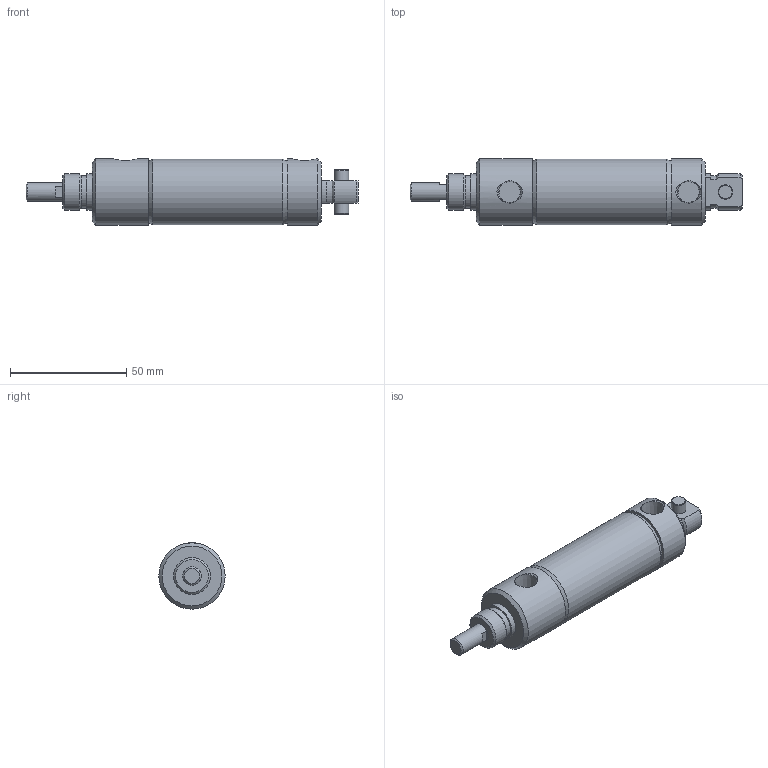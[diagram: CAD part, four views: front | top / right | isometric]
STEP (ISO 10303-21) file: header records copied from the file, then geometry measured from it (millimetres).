
FILE_DESCRIPTION( ( 'STEP AP214' ), '1' );
FILE_NAME( 'p:/temp/worker_460/temp/exporttempdir_84208_183_1CZVI/format_0/1062D02-01A.stp', '2020-05-07T16:37:35', ( 'License CC BY-ND 4.0' ), ( 'CADENAS' ), ' ', 'PARTsolutions', ' ' );
FILE_SCHEMA( ( 'AUTOMOTIVE_DESIGN { 1 0 10303 214 1 1 1 1 }' ) );
Length unit declared in the file: inch
Products named in the file (3): 1062D02-01A; _1062D02-01A-001062D02-01A-0000A00A0b; _1062D02-01A-001062D02-01A-0000A00A0r
Assembly tree (2 placements, depth 2):
  1062D02-01A
    _1062D02-01A-001062D02-01A-0000A00A0b
    _1062D02-01A-001062D02-01A-0000A00A0r
Bounding box: 142.88 x 28.57 x 28.57 mm (x, y, z)
Volume: 53204.4 mm3; surface area: 24794.6 mm2
Topology: 2 solids, 2 shells, 65 faces, 129 edges, 83 vertices
Faces by surface type: plane 27, cone 19, cylinder 19
Full cylindrical faces by diameter (mm): 6.35 x2, 7.95 x3, 14.196 x1, 15.85 x1, 15.875 x1, 26.987 x2, 28.397 x1, 28.575 x2
Entity records: 2276 total; most frequent: CARTESIAN_POINT 442, DIRECTION 280, ORIENTED_EDGE 204, AXIS2_PLACEMENT_3D 126, EDGE_LOOP 104, EDGE_CURVE 102, VERTEX_POINT 80, FACE_OUTER_BOUND 78
